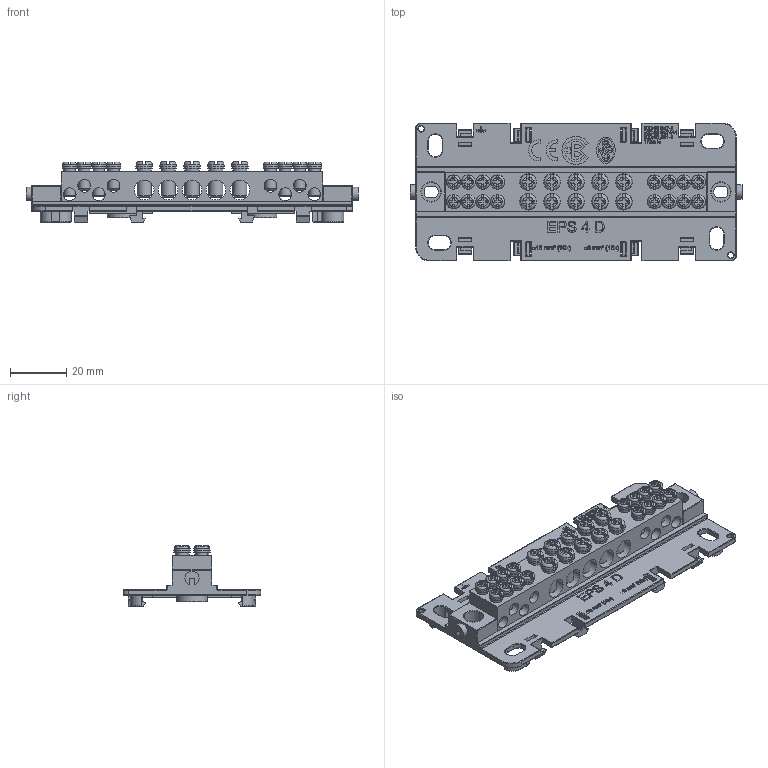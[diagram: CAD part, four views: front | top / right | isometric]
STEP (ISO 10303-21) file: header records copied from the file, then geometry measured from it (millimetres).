
FILE_DESCRIPTION(/* description */ ('Unknown'),/* implementation_level */ '2;1');
FILE_NAME(/* name */ 'EPS 4 D',/* time_stamp */ '2021-07-14T08:04:05+02:00',/* author */ ('Unknown'),/* organization */ ('Unknown'),/* preprocessor_version */ 'ST-DEVELOPER v16.7',/* originating_system */ 'Solid Edge',/* authorisation */ 'Unknown');
FILE_SCHEMA (('AUTOMOTIVE_DESIGN {1 0 10303 214 3 1 1}'));
Products named in the file (1): EPS 4 D
Bounding box: 118 x 49 x 21.6 mm (x, y, z)
Volume: 27857.6 mm3; surface area: 24658 mm2
Topology: 1 solids, 7 shells, 2040 faces, 5276 edges, 3393 vertices
Faces by surface type: plane 1332, cylinder 355, torus 170, bspline 115, cone 54, sphere 14
Full cylindrical faces by diameter (mm): 2 x2, 3.242 x2, 4 x32, 4.6 x8, 5 x26, 5.1 x16, 5.9 x10, 6.8 x2, 7 x5, 8.2 x2, 11 x2
Entity records: 80250 total; most frequent: CARTESIAN_POINT 18340, ORIENTED_EDGE 9876, DIRECTION 9162, EDGE_CURVE 4938, VERTEX_POINT 3328, LINE 3286, VECTOR 3286, AXIS2_PLACEMENT_3D 2938
